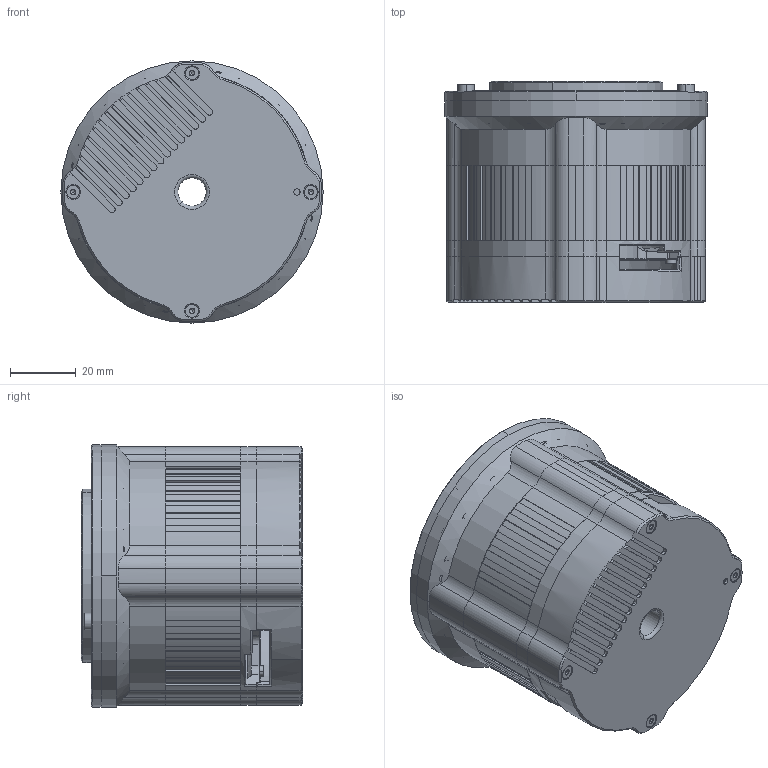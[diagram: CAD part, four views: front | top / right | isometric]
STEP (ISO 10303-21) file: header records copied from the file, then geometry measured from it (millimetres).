
FILE_DESCRIPTION (( 'STEP AP203' ), '1' );
FILE_NAME ('RMD-X6-P20-60.STEP', '2026-03-25T10:28:04', ( '' ), ( '' ), 'SwSTEP 2.0', 'SolidWorks 2020', '' );
FILE_SCHEMA (( 'CONFIG_CONTROL_DESIGN' ));
Length unit declared in the file: millimetre
Products named in the file (16): XMT.106.003_Default<偌樓馱>; 80ZWC64LEG-1_0_0-02; M2X18; RMD-X6-P20-60; M3X10; JBAU3-8_Default<偌樓馱>; 8MT.013.031_Default<偌樓馱>; 俴陎种_Default<偌樓馱>; XMT.101.012_GearTrax; 菜え_Default<偌樓馱>; XMT.105.012_Default<偌樓馱>; XMT.105.020_Default<偌樓馱>; 8MT.013.039; XMT.105.004_Default<偌樓馱>; 686-2Z P5  D6xD13x5_Default<偌樓馱>; M1.6X4
Assembly tree (24 placements, depth 2):
  RMD-X6-P20-60
    8MT.013.039
    XMT.105.004_Default<偌樓馱>
    菜え_Default<偌樓馱>  x2
    XMT.105.012_Default<偌樓馱>
    XMT.105.020_Default<偌樓馱>
    XMT.106.003_Default<偌樓馱>
    俴陎种_Default<偌樓馱>
    686-2Z P5  D6xD13x5_Default<偌樓馱>
    JBAU3-8_Default<偌樓馱>  x2
    8MT.013.031_Default<偌樓馱>
    XMT.101.012_GearTrax
    80ZWC64LEG-1_0_0-02
    M2X18  x4
    M3X10  x4
    M1.6X4  x2
Bounding box: 80 x 67.5 x 80 mm (x, y, z)
Volume: 55917.4 mm3; surface area: 84072.2 mm2
Topology: 23 solids, 36 shells, 1661 faces, 4325 edges, 2717 vertices
Faces by surface type: cylinder 869, plane 432, cone 304, bspline 45, torus 11
Entity records: 52594 total; most frequent: CARTESIAN_POINT 13531, DIRECTION 8338, ORIENTED_EDGE 7498, EDGE_CURVE 3773, AXIS2_PLACEMENT_3D 3343, VERTEX_POINT 2456, CIRCLE 1895, EDGE_LOOP 1681
